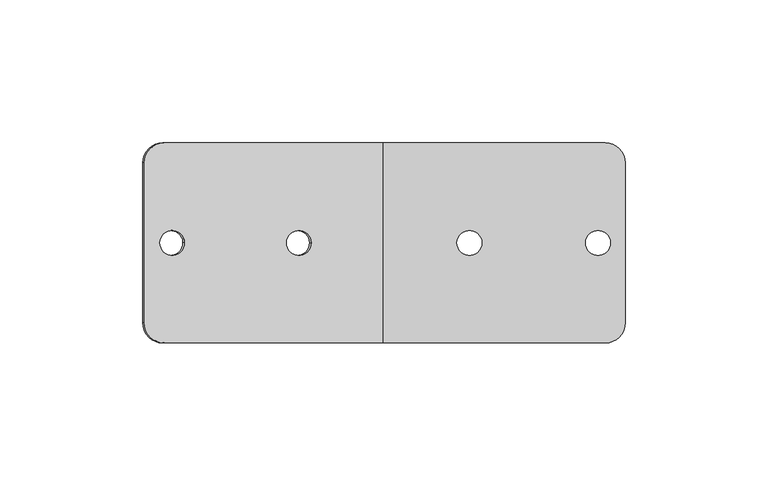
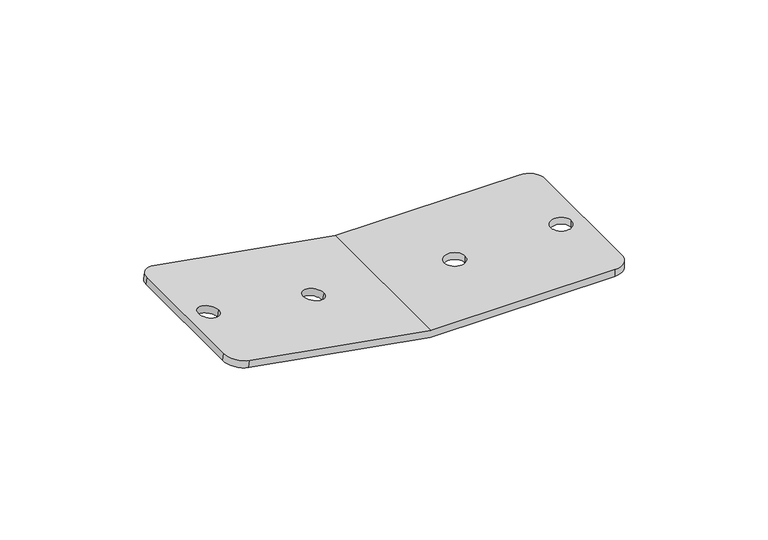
"""IFC4 building model written with IfcOpenShell, lengths in millimetres: proxy geometry, d&b xS-Series 44S Cluster Bracket : 44S Cluster Bracket."""

from ifc_helpers import new_model, si_unit, frame, origin, place, context, project, spatial, polyline, circle_curve, source, transform, mapped, element, save
from ifc_brep_helpers import plane_surface, cylinder_surface, revolved_surface, advanced_brep


def communication_devices_e7496f29(model_context):
    return source(origin(), model_context, "Body", "AdvancedBrep", [
        advanced_brep(
        [(-129.8641799, -35.0, 13.5479446), (-136.7578342, -28.0, 14.7634819), (-136.7578342, 28.0, 14.7634819), (-129.8641799, 35.0, 13.5479446), (-53.0299678, 35.0, 0.0), (-53.0299678, -35.0, 0.0), (-78.413601, 0.0, 4.4758194), (-86.9800787, 0.0, 5.9863206), (-131.3083351, 0.0, 13.8025882), (-122.7418574, 0.0, 12.292087), (-129.3432354, 35.0, 16.5023679), (-136.2368896, 28.0, 17.7179051), (-136.2368896, -28.0, 17.7179051), (-129.3432354, -35.0, 16.5023679), (-52.7675018, -35.0, 3.0), (-52.7675018, 35.0, 3.0), (-77.8926565, 0.0, 7.4302427), (-86.4591342, 0.0, 8.9407438), (-130.7873905, 0.0, 16.7570114), (-122.2209128, 0.0, 15.2465103), (24.9895359, -35.0, 0.0), (24.9895359, -35.0, 3.0), (24.9895359, 35.0, 3.0), (24.9895359, 35.0, 0.0), (31.9895359, 28.0, 0.0), (31.9895359, -28.0, 0.0), (-26.8553603, 0.0, 0.0), (-18.1567308, 0.0, 0.0), (26.8553603, 0.0, 0.0), (18.1567308, 0.0, 0.0), (31.9895359, -28.0, 3.0), (31.9895359, 28.0, 3.0), (-26.8553603, 0.0, 3.0), (-18.1567308, 0.0, 3.0), (26.8553603, 0.0, 3.0), (18.1567308, 0.0, 3.0)],
        [
            (0, 1, circle_curve(frame((-129.8641799, -28.0, 13.5479446), z_axis=(-0.17364817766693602, 0.0, -0.984807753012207), x_axis=(0.968958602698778, -0.1786848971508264, -0.17085354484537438)), 7.0)),
            (1, 2),
            (2, 3, circle_curve(frame((-129.8641799, 28.0, 13.5479446), z_axis=(-0.17364817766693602, 0.0, -0.984807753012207), x_axis=(0.968958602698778, -0.1786848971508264, -0.17085354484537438)), 7.0)),
            (3, 4),
            (4, 5),
            (5, 0),
            (6, 7, circle_curve(frame((-82.6968399, 0.0, 5.23107), z_axis=(0.17364817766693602, 0.0, 0.9848077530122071), x_axis=(-0.9848077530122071, 0.0, 0.17364817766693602)), 4.3493147)),
            (7, 6, circle_curve(frame((-82.6968399, 0.0, 5.23107), z_axis=(0.17364817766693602, 0.0, 0.9848077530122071), x_axis=(-0.9848077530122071, 0.0, 0.17364817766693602)), 4.3493147)),
            (8, 9, circle_curve(frame((-127.0250962, 0.0, 13.0473376), z_axis=(0.1736481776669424, 0.0, 0.984807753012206), x_axis=(0.984807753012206, 0.0, -0.1736481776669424)), 4.3493147)),
            (9, 8, circle_curve(frame((-127.0250962, 0.0, 13.0473376), z_axis=(0.1736481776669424, 0.0, 0.984807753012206), x_axis=(0.984807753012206, 0.0, -0.1736481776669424)), 4.3493147)),
            (10, 11, circle_curve(frame((-129.3432354, 28.0, 16.5023679), z_axis=(0.17364817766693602, 0.0, 0.984807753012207), x_axis=(0.968958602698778, -0.1786848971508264, -0.17085354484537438)), 7.0)),
            (11, 12),
            (12, 13, circle_curve(frame((-129.3432354, -28.0, 16.5023679), z_axis=(0.17364817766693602, 0.0, 0.984807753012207), x_axis=(0.968958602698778, -0.1786848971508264, -0.17085354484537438)), 7.0)),
            (13, 14),
            (14, 15),
            (15, 10),
            (16, 17, circle_curve(frame((-82.1758954, 0.0, 8.1854932), z_axis=(-0.17364817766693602, 0.0, -0.9848077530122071), x_axis=(-0.9848077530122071, 0.0, 0.17364817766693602)), 4.3493147)),
            (17, 16, circle_curve(frame((-82.1758954, 0.0, 8.1854932), z_axis=(-0.17364817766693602, 0.0, -0.9848077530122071), x_axis=(-0.9848077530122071, 0.0, 0.17364817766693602)), 4.3493147)),
            (18, 19, circle_curve(frame((-126.5041517, 0.0, 16.0017608), z_axis=(-0.1736481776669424, 0.0, -0.984807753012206), x_axis=(0.984807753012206, 0.0, -0.1736481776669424)), 4.3493147)),
            (19, 18, circle_curve(frame((-126.5041517, 0.0, 16.0017608), z_axis=(-0.1736481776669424, 0.0, -0.984807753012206), x_axis=(0.984807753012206, 0.0, -0.1736481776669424)), 4.3493147)),
            (13, 0),
            (5, 20),
            (20, 21),
            (21, 14),
            (12, 1),
            (11, 2),
            (10, 3),
            (15, 22),
            (22, 23),
            (23, 4),
            (6, 16),
            (17, 7),
            (8, 18),
            (19, 9),
            (23, 24, circle_curve(frame((24.9895359, 28.0, 0.0), z_axis=(0.0, 0.0, -1.0), x_axis=(-1.0, 0.0, 0.0)), 7.0)),
            (24, 25),
            (25, 20, circle_curve(frame((24.9895359, -28.0, 0.0), z_axis=(0.0, 0.0, -1.0), x_axis=(-1.0, 0.0, 0.0)), 7.0)),
            (26, 27, circle_curve(frame((-22.5060456, 0.0, 0.0), z_axis=(0.0, 0.0, 1.0), x_axis=(1.0, 0.0, 0.0)), 4.3493147)),
            (27, 26, circle_curve(frame((-22.5060456, 0.0, 0.0), z_axis=(0.0, 0.0, 1.0), x_axis=(1.0, 0.0, 0.0)), 4.3493147)),
            (28, 29, circle_curve(frame((22.5060456, 0.0, 0.0), z_axis=(0.0, 0.0, 1.0), x_axis=(-1.0, 0.0, 0.0)), 4.3493147)),
            (29, 28, circle_curve(frame((22.5060456, 0.0, 0.0), z_axis=(0.0, 0.0, 1.0), x_axis=(-1.0, 0.0, 0.0)), 4.3493147)),
            (21, 30, circle_curve(frame((24.9895359, -28.0, 3.0), z_axis=(0.0, 0.0, 1.0), x_axis=(-1.0, 0.0, 0.0)), 7.0)),
            (30, 31),
            (31, 22, circle_curve(frame((24.9895359, 28.0, 3.0), z_axis=(0.0, 0.0, 1.0), x_axis=(-1.0, 0.0, 0.0)), 7.0)),
            (32, 33, circle_curve(frame((-22.5060456, 0.0, 3.0), z_axis=(0.0, 0.0, -1.0), x_axis=(1.0, 0.0, 0.0)), 4.3493147)),
            (33, 32, circle_curve(frame((-22.5060456, 0.0, 3.0), z_axis=(0.0, 0.0, -1.0), x_axis=(1.0, 0.0, 0.0)), 4.3493147)),
            (34, 35, circle_curve(frame((22.5060456, 0.0, 3.0), z_axis=(0.0, 0.0, -1.0), x_axis=(-1.0, 0.0, 0.0)), 4.3493147)),
            (35, 34, circle_curve(frame((22.5060456, 0.0, 3.0), z_axis=(0.0, 0.0, -1.0), x_axis=(-1.0, 0.0, 0.0)), 4.3493147)),
            (32, 26),
            (27, 33),
            (34, 28),
            (29, 35),
            (25, 30),
            (24, 31),
        ],
        [
            plane_surface(frame((-129.8641799, -35.0, 13.5479446), z_axis=(-0.17364817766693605, 0.0, -0.9848077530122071), x_axis=(-0.9848077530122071, 0.0, 0.17364817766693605))),
            plane_surface(frame((-129.3432354, -35.0, 16.5023679), z_axis=(0.17364817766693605, 0.0, 0.9848077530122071), x_axis=(0.9848077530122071, 0.0, -0.17364817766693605))),
            plane_surface(frame((-62.8972527, -35.0, 1.7398686), z_axis=(0.0, -1.0, 0.0), x_axis=(0.17364817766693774, 0.0, 0.9848077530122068))),
            cylinder_surface(frame((-129.3432354, -28.0, 16.5023679), z_axis=(-0.17364817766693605, 0.0, -0.9848077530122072), x_axis=(0.968958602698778, -0.1786848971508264, -0.17085354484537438)), 7.0),
            plane_surface(frame((-136.7578342, -28.0, 14.7634819), z_axis=(-0.9848077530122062, 0.0, 0.17364817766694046), x_axis=(0.17364817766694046, 0.0, 0.9848077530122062))),
            cylinder_surface(frame((-129.3432354, 28.0, 16.5023679), z_axis=(-0.17364817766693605, 0.0, -0.9848077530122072), x_axis=(0.968958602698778, -0.1786848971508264, -0.17085354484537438)), 7.0),
            plane_surface(frame((-129.8641799, 35.0, 13.5479446), z_axis=(0.0, 1.0000000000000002, 0.0), x_axis=(0.17364817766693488, 0.0, 0.9848077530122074))),
            revolved_surface(polyline([(-86.45913422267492, 0.0, 8.940743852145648), (-86.98007876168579, 0.0, 5.986320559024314)]), (-82.1758954, 0.0, 8.1854932), (0.17364817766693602, 0.0, 0.9848077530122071)),
            revolved_surface(polyline([(-122.22091284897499, 0.0, 15.246510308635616), (-122.74185739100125, 0.0, 12.292086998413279)]), (-126.5041517, 0.0, 16.0017608), (0.1736481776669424, 0.0, 0.984807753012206)),
            plane_surface(frame((-53.0299678, -35.0, 0.0), z_axis=(0.0, 0.0, -1.0), x_axis=(0.0, 1.0, 0.0))),
            plane_surface(frame((-37.7436944, -35.0, 3.0), z_axis=(0.0, 0.0, 1.0), x_axis=(0.0, 1.0, 0.0))),
            revolved_surface(polyline([(-18.1567309, 0.0, 0.0), (-18.1567309, 0.0, 3.0)]), (-22.5060456, 0.0, 0.0), (0.0, 0.0, -1.0)),
            revolved_surface(polyline([(18.1567309, 0.0, 0.0), (18.1567309, 0.0, 3.0)]), (22.5060456, 0.0, 50.0), (0.0, 0.0, -1.0)),
            cylinder_surface(frame((24.9895359, -28.0, 50.0), z_axis=(0.0, 0.0, 1.0), x_axis=(-1.0, 0.0, 0.0)), 7.0),
            plane_surface(frame((31.9895359, -28.0, 3.0), z_axis=(1.0, 0.0, 0.0), x_axis=(0.0, 0.0, -1.0))),
            cylinder_surface(frame((24.9895359, 28.0, 50.0), z_axis=(0.0, 0.0, 1.0), x_axis=(-1.0, 0.0, 0.0)), 7.0),
        ],
        [
            (0, [[1, 2, 3, 4, 5, 6], [7, 8], [9, 10]]),
            (1, [[11, 12, 13, 14, 15, 16], [17, 18], [19, 20]]),
            (2, [[21, -6, 22, 23, 24, -14]]),
            (3, [[-1, -21, -13, 25]]),
            (4, [[-2, -25, -12, 26]]),
            (5, [[-3, -26, -11, 27]]),
            (6, [[-27, -16, 28, 29, 30, -4]]),
            (7, [[-7, 31, -18, 32]]),
            (7, [[-8, -32, -17, -31]]),
            (8, [[-9, 33, -20, 34]]),
            (8, [[-10, -34, -19, -33]]),
            (9, [[-22, -5, -30, 35, 36, 37], [38, 39], [40, 41]]),
            (10, [[-24, 42, 43, 44, -28, -15], [45, 46], [47, 48]]),
            (11, [[-45, 49, -39, 50]]),
            (11, [[-46, -50, -38, -49]]),
            (12, [[-47, 51, -41, 52]]),
            (12, [[-48, -52, -40, -51]]),
            (13, [[-42, -23, -37, 53]]),
            (14, [[-43, -53, -36, 54]]),
            (15, [[-44, -54, -35, -29]]),
        ],
    ),
    ])


if __name__ == "__main__":
    model = new_model("IFC4")
    model_context = context("Model", 3, world=origin())
    ifc_project = project(units=[si_unit("LENGTHUNIT", "METRE", prefix="MILLI")], contexts=[model_context])
    site = spatial("IfcSite", under=ifc_project)
    building = spatial("IfcBuilding", under=site)
    placement = place(None, origin())
    communication_devices_shape = communication_devices_e7496f29(model_context)
    element("IfcBuildingElementProxy", 1, Name="d&b xS-Series 44S Cluster Bracket : 44S Cluster Bracket", ObjectType="d&b xS-Series 44S Cluster Bracket : 44S Cluster Bracket", at=placement, inside=building, context=model_context, shape_type="MappedRepresentation", body=[
        mapped(communication_devices_shape, transform((0.0, 0.0, 0.0), x_axis=(1.0, 0.0, 0.0), y_axis=(0.0, 1.0, 0.0), z_axis=(0.0, 0.0, 1.0))),
    ])
    save(model, "model.ifc")
